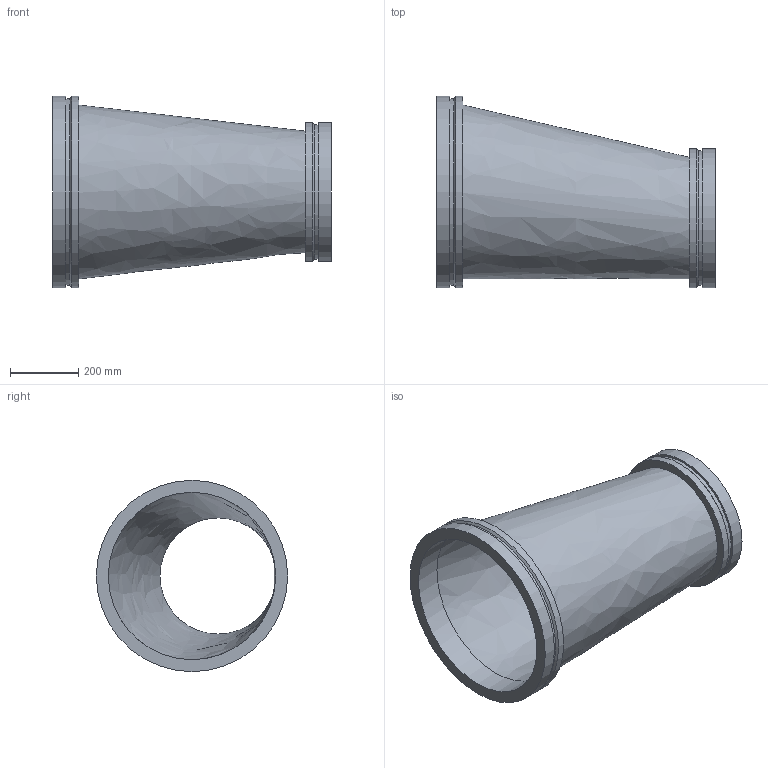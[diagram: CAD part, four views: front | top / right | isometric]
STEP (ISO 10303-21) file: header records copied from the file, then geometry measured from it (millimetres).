
FILE_DESCRIPTION(/* description */ ('VIC REDUCER ECCENTRIC No W51-VR','CAx-IF Rec.Pracs.---Representation and Presentation of Product Manufacturing Information (PMI)---4.0---2014-10-13'),/* implementation_level */ '2;1');
FILE_NAME(/* name */ 'C:\Users\kkamble\AppData\Roaming\Autodesk\ApplicationPlugins\Back Up\Victaulic_Vic-Ring_Reducer Eccentric_No W51 VR (AGR)\Victaulic_Vic-Ring_Reducer Eccentric_No W51 VR (AGR)_20.0x14.0 (500x350).stp',/* time_stamp */ '2020-09-10T11:49:03+05:00',/* author */ ('CONSTRUCTION PIPING SERVICES'),/* organization */ ('Victaulic'),/* preprocessor_version */ 'ST-DEVELOPER v17.2',/* originating_system */ 'Autodesk Inventor 2019',/* authorisation */ '');
FILE_SCHEMA (('AP242_MANAGED_MODEL_BASED_3D_ENGINEERING_MIM_LF { 1 0 10303 442 1 1 4 }'));
Length unit declared in the file: inch
Products named in the file (1): W51 VR-20.0x14.0
Bounding box: 812.8 x 558.8 x 558.8 mm (x, y, z)
Volume: 14825289.1 mm3; surface area: 2398290.1 mm2
Topology: 1 solids, 1 shells, 18 faces, 52 edges, 40 vertices
Faces by surface type: cylinder 8, plane 6, cone 2, bspline 2
Full cylindrical faces by diameter (mm): 339.598 x1, 393.7 x1, 406.4 x2, 488.95 x1, 546.1 x1, 558.8 x2
Entity records: 822 total; most frequent: CARTESIAN_POINT 164, DIRECTION 150, ORIENTED_EDGE 104, AXIS2_PLACEMENT_3D 70, EDGE_CURVE 52, CIRCLE 40, VERTEX_POINT 40, EDGE_LOOP 24
